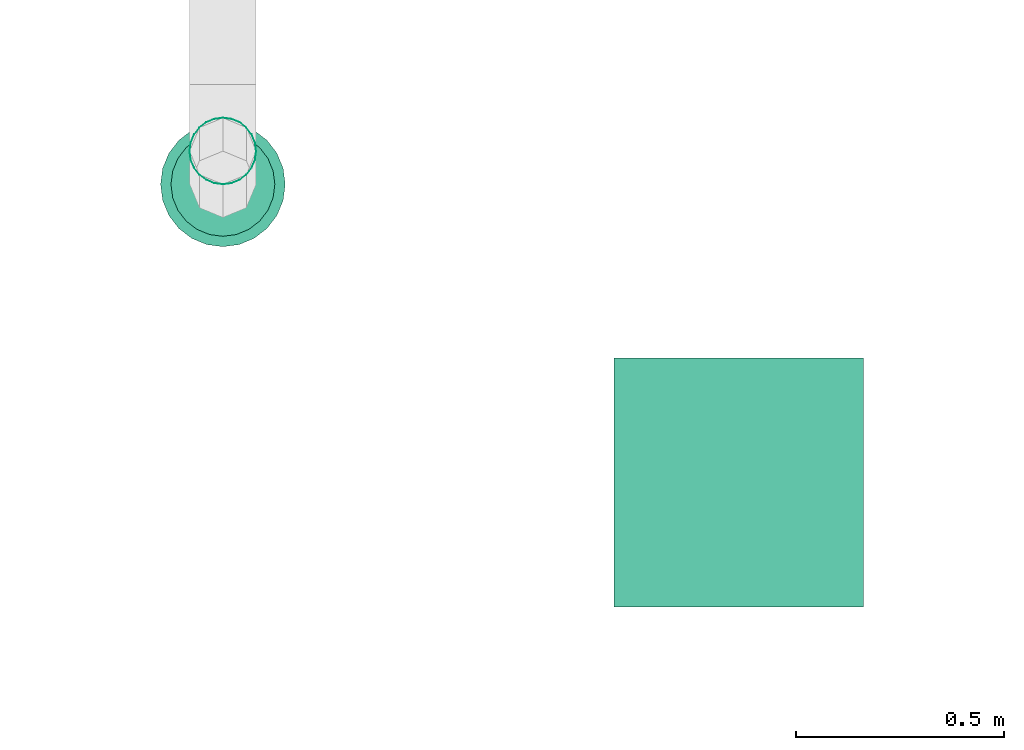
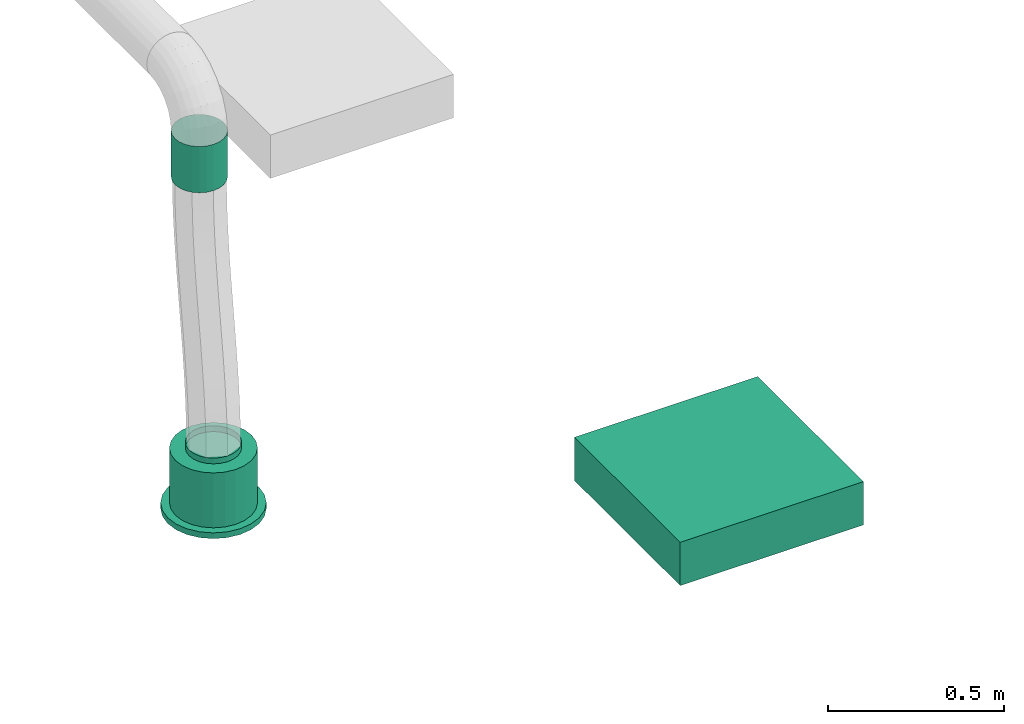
# One storey, part 16 of 374: 1 distribution element, 1 flow segment, 1 flow terminal.
"""IFC2X3 building model written with IfcOpenShell, lengths in metres."""

from ifc_helpers import new_model, si_unit, direction, frame, frame_2d, origin, place, context, subcontext, project, spatial, rectangle, extrude, open_shell, surface_model, source, transform, mapped, element, save


model = new_model("IFC2X3")

# Units and contexts
model_context = context("Model", 3, precision=1e-05, world=origin(), true_north=direction((-0.4480736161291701, 0.8939966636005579)))
body_context = subcontext(model_context, "Body", "Model", "MODEL_VIEW")
ifc_project = project(units=[si_unit("LENGTHUNIT", "METRE"), si_unit("AREAUNIT", "SQUARE_METRE"), si_unit("VOLUMEUNIT", "CUBIC_METRE"), si_unit("PLANEANGLEUNIT", "RADIAN"), si_unit("THERMODYNAMICTEMPERATUREUNIT", "KELVIN"), si_unit("MASSUNIT", "GRAM", prefix="KILO"), si_unit("TIMEUNIT", "SECOND")], contexts=[model_context])

# Site, building, storey
site_placement = place(None, origin())
site = spatial("IfcSite", under=ifc_project, at=site_placement, Name="Site 1", CompositionType="ELEMENT")
building_placement = place(site_placement, origin())
building = spatial("IfcBuilding", under=site, at=building_placement, Name="Undefined", CompositionType="ELEMENT")
storey_placement = place(building_placement, origin())
storey = spatial("IfcBuildingStorey", under=building, at=storey_placement, Name="Rez de chauss\x8ee", CompositionType="ELEMENT", Elevation=0.0)

# Flow terminal
shared_shape_1 = source(origin(), body_context, "Body", "SurfaceModel", [
    surface_model("IfcFaceBasedSurfaceModel", [(0.0, 0.0, 0.0), (0.03915785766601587, 0.0, 0.0), (0.03915785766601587, 0.020000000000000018, 0.0), (3.552713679e-15, 0.020000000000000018, 0.0), (0.07698144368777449, 0.0, -0.010134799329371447), (0.07698144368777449, 0.020000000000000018, -0.010134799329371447), (0.11089314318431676, 0.0, -0.02971372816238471), (0.11089314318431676, 0.020000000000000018, -0.02971372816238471), (0.13858192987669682, 0.0, -0.05740251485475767), (0.13858192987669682, 0.020000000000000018, -0.05740251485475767), (0.15816085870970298, 0.0, -0.09131421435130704), (0.15816085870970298, 0.020000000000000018, -0.09131421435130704), (0.16829565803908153, 0.0, -0.12913780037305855), (0.16829565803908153, 0.020000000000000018, -0.12913780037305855), (0.16829565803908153, 0.0, -0.16829565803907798), (0.16829565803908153, 0.020000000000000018, -0.16829565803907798), (0.15816085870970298, 0.0, -0.20611924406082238), (0.15816085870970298, 0.020000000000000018, -0.20611924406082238), (0.13858192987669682, 0.0, -0.24003094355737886), (0.13858192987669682, 0.020000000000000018, -0.24003094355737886), (0.11089314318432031, 0.0, -0.2677197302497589), (0.11089314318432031, 0.020000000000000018, -0.2677197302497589), (0.07698144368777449, 0.0, -0.2872986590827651), (0.07698144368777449, 0.020000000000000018, -0.2872986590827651), (0.039157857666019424, 0.0, -0.29743345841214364), (0.039157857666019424, 0.020000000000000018, -0.29743345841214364), (3.552713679e-15, 0.0, -0.29743345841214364), (3.552713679e-15, 0.020000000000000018, -0.29743345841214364), (-0.03782358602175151, 0.0, -0.2872986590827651), (-0.03782358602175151, 0.020000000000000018, -0.2872986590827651), (-0.07173528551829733, 0.0, -0.2677197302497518), (-0.07173528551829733, 0.020000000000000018, -0.2677197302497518), (-0.0994240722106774, 0.0, -0.24003094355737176), (-0.0994240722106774, 0.020000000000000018, -0.24003094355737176), (-0.11900300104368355, 0.0, -0.2061192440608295), (-0.11900300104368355, 0.020000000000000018, -0.2061192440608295), (-0.1291378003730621, 0.0, -0.16829565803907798), (-0.1291378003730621, 0.020000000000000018, -0.16829565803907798), (-0.1291378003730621, 0.0, -0.12913780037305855), (-0.1291378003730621, 0.020000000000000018, -0.12913780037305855), (-0.11900300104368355, 0.0, -0.09131421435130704), (-0.11900300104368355, 0.020000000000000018, -0.09131421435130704), (-0.0994240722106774, 0.0, -0.05740251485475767), (-0.0994240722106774, 0.020000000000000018, -0.05740251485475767), (-0.07173528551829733, 0.0, -0.029713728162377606), (-0.07173528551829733, 0.020000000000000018, -0.029713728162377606), (-0.03782358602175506, 0.0, -0.010134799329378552), (-0.03782358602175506, 0.020000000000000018, -0.010134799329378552), (0.019578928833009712, 0.0, -0.14871672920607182), (0.019578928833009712, 0.020000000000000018, -0.14871672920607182), (0.003263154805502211, 0.020000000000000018, -0.02478612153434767), (0.035894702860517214, 0.020000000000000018, -0.02478612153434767), (0.035894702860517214, 0.20999999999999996, -0.02478612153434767), (0.003263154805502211, 0.20999999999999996, -0.02478612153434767), (0.06741435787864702, 0.020000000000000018, -0.033231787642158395), (0.06741435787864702, 0.20999999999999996, -0.033231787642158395), (0.0956741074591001, 0.020000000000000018, -0.04954756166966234), (0.0956741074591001, 0.20999999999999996, -0.04954756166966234), (0.11874809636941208, 0.020000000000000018, -0.07262155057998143), (0.11874809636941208, 0.20999999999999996, -0.07262155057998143), (0.13506387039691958, 0.020000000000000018, -0.10088130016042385), (0.13506387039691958, 0.20999999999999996, -0.10088130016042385), (0.1435095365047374, 0.020000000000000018, -0.13240095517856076), (0.1435095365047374, 0.20999999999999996, -0.13240095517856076), (0.1435095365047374, 0.020000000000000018, -0.16503250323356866), (0.1435095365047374, 0.20999999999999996, -0.16503250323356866), (0.13506387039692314, 0.020000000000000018, -0.19655215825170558), (0.13506387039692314, 0.20999999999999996, -0.19655215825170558), (0.11874809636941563, 0.020000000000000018, -0.2248119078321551), (0.11874809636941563, 0.20999999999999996, -0.2248119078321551), (0.09567410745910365, 0.020000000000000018, -0.24788589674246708), (0.09567410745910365, 0.20999999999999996, -0.24788589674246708), (0.06741435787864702, 0.020000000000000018, -0.26420167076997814), (0.06741435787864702, 0.20999999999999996, -0.26420167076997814), (0.035894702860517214, 0.020000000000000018, -0.27264733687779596), (0.035894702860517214, 0.20999999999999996, -0.27264733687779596), (0.0032631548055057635, 0.020000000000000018, -0.27264733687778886), (0.0032631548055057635, 0.20999999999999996, -0.27264733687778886), (-0.028256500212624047, 0.020000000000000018, -0.26420167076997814), (-0.028256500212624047, 0.20999999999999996, -0.26420167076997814), (-0.05651624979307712, 0.020000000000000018, -0.2478858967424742), (-0.05651624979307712, 0.20999999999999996, -0.2478858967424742), (-0.07959023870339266, 0.020000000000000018, -0.2248119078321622), (-0.07959023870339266, 0.20999999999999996, -0.2248119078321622), (-0.09590601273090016, 0.020000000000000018, -0.19655215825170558), (-0.09590601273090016, 0.20999999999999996, -0.19655215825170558), (-0.10435167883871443, 0.020000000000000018, -0.16503250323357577), (-0.10435167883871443, 0.20999999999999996, -0.16503250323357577), (-0.10435167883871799, 0.020000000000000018, -0.13240095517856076), (-0.10435167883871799, 0.20999999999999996, -0.13240095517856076), (-0.09590601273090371, 0.020000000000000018, -0.10088130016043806), (-0.09590601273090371, 0.20999999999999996, -0.10088130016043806), (-0.07959023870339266, 0.020000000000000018, -0.07262155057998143), (-0.07959023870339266, 0.20999999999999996, -0.07262155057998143), (-0.056516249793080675, 0.020000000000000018, -0.04954756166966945), (-0.056516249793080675, 0.20999999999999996, -0.04954756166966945), (-0.028256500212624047, 0.020000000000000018, -0.033231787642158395), (-0.028256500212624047, 0.20999999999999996, -0.033231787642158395), (0.019578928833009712, 0.20999999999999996, -0.14871672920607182), (0.009136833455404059, 0.20999999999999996, -0.06940114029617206), (0.030021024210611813, 0.20999999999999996, -0.06940114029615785), (0.030021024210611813, 0.22999999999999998, -0.06940114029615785), (0.009136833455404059, 0.22999999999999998, -0.06940114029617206), (0.05019360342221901, 0.20999999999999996, -0.07480636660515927), (0.05019360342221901, 0.22999999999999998, -0.07480636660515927), (0.06827984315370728, 0.20999999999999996, -0.08524846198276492), (0.06827984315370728, 0.22999999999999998, -0.08524846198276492), (0.0830471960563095, 0.20999999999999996, -0.10001581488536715), (0.0830471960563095, 0.22999999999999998, -0.10001581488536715), (0.0934892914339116, 0.20999999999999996, -0.11810205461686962), (0.0934892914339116, 0.22999999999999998, -0.11810205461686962), (0.09889451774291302, 0.20999999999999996, -0.13827463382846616), (0.09889451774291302, 0.22999999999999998, -0.13827463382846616), (0.09889451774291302, 0.20999999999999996, -0.15915882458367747), (0.09889451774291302, 0.22999999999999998, -0.15915882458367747), (0.09348929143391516, 0.20999999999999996, -0.179331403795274), (0.09348929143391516, 0.22999999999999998, -0.179331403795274), (0.0830471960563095, 0.20999999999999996, -0.19741764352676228), (0.0830471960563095, 0.22999999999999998, -0.19741764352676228), (0.06827984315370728, 0.20999999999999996, -0.2121849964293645), (0.06827984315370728, 0.22999999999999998, -0.2121849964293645), (0.05019360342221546, 0.20999999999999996, -0.22262709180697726), (0.05019360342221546, 0.22999999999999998, -0.22262709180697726), (0.030021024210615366, 0.20999999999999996, -0.22803231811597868), (0.030021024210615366, 0.22999999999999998, -0.22803231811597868), (0.009136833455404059, 0.20999999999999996, -0.22803231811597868), (0.009136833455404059, 0.22999999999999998, -0.22803231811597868), (-0.011035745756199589, 0.20999999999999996, -0.22262709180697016), (-0.011035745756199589, 0.22999999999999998, -0.22262709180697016), (-0.0291219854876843, 0.20999999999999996, -0.2121849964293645), (-0.0291219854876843, 0.22999999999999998, -0.2121849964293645), (-0.043889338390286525, 0.20999999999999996, -0.19741764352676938), (-0.043889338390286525, 0.22999999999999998, -0.19741764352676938), (-0.05433143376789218, 0.20999999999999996, -0.17933140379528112), (-0.05433143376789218, 0.22999999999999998, -0.17933140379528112), (-0.05973666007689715, 0.20999999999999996, -0.15915882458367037), (-0.05973666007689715, 0.22999999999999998, -0.15915882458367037), (-0.0597366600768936, 0.20999999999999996, -0.13827463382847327), (-0.0597366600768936, 0.22999999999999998, -0.13827463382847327), (-0.05433143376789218, 0.20999999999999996, -0.11810205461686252), (-0.05433143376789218, 0.22999999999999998, -0.11810205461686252), (-0.043889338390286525, 0.20999999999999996, -0.10001581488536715), (-0.043889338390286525, 0.22999999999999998, -0.10001581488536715), (-0.02912198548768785, 0.20999999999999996, -0.08524846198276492), (-0.02912198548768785, 0.22999999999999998, -0.08524846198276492), (-0.011035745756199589, 0.20999999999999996, -0.07480636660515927), (-0.011035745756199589, 0.22999999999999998, -0.07480636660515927)], [open_shell([[[0, 1, 2, 3]], [[1, 4, 5, 2]], [[4, 6, 7, 5]], [[6, 8, 9, 7]], [[8, 10, 11, 9]], [[10, 12, 13, 11]], [[12, 14, 15, 13]], [[14, 16, 17, 15]], [[16, 18, 19, 17]], [[18, 20, 21, 19]], [[20, 22, 23, 21]], [[22, 24, 25, 23]], [[24, 26, 27, 25]], [[26, 28, 29, 27]], [[28, 30, 31, 29]], [[30, 32, 33, 31]], [[32, 34, 35, 33]], [[34, 36, 37, 35]], [[36, 38, 39, 37]], [[38, 40, 41, 39]], [[40, 42, 43, 41]], [[42, 44, 45, 43]], [[44, 46, 47, 45]], [[46, 0, 3, 47]], [[48, 1, 0]], [[48, 4, 1]], [[48, 6, 4]], [[48, 8, 6]], [[48, 10, 8]], [[48, 12, 10]], [[48, 14, 12]], [[48, 16, 14]], [[48, 18, 16]], [[48, 20, 18]], [[48, 22, 20]], [[48, 24, 22]], [[48, 26, 24]], [[48, 28, 26]], [[48, 30, 28]], [[48, 32, 30]], [[48, 34, 32]], [[48, 36, 34]], [[48, 38, 36]], [[48, 40, 38]], [[48, 42, 40]], [[48, 44, 42]], [[48, 46, 44]], [[48, 0, 46]], [[49, 47, 3]], [[49, 45, 47]], [[49, 43, 45]], [[49, 41, 43]], [[49, 39, 41]], [[49, 37, 39]], [[49, 35, 37]], [[49, 33, 35]], [[49, 31, 33]], [[49, 29, 31]], [[49, 27, 29]], [[49, 25, 27]], [[49, 23, 25]], [[49, 21, 23]], [[49, 19, 21]], [[49, 17, 19]], [[49, 15, 17]], [[49, 13, 15]], [[49, 11, 13]], [[49, 9, 11]], [[49, 7, 9]], [[49, 5, 7]], [[49, 2, 5]], [[49, 3, 2]], [[50, 51, 52, 53]], [[51, 54, 55, 52]], [[54, 56, 57, 55]], [[56, 58, 59, 57]], [[58, 60, 61, 59]], [[60, 62, 63, 61]], [[62, 64, 65, 63]], [[64, 66, 67, 65]], [[66, 68, 69, 67]], [[68, 70, 71, 69]], [[70, 72, 73, 71]], [[72, 74, 75, 73]], [[74, 76, 77, 75]], [[76, 78, 79, 77]], [[78, 80, 81, 79]], [[80, 82, 83, 81]], [[82, 84, 85, 83]], [[84, 86, 87, 85]], [[86, 88, 89, 87]], [[88, 90, 91, 89]], [[90, 92, 93, 91]], [[92, 94, 95, 93]], [[94, 96, 97, 95]], [[96, 50, 53, 97]], [[49, 51, 50]], [[49, 54, 51]], [[49, 56, 54]], [[49, 58, 56]], [[49, 60, 58]], [[49, 62, 60]], [[49, 64, 62]], [[49, 66, 64]], [[49, 68, 66]], [[49, 70, 68]], [[49, 72, 70]], [[49, 74, 72]], [[49, 76, 74]], [[49, 78, 76]], [[49, 80, 78]], [[49, 82, 80]], [[49, 84, 82]], [[49, 86, 84]], [[49, 88, 86]], [[49, 90, 88]], [[49, 92, 90]], [[49, 94, 92]], [[49, 96, 94]], [[49, 50, 96]], [[98, 97, 53]], [[98, 95, 97]], [[98, 93, 95]], [[98, 91, 93]], [[98, 89, 91]], [[98, 87, 89]], [[98, 85, 87]], [[98, 83, 85]], [[98, 81, 83]], [[98, 79, 81]], [[98, 77, 79]], [[98, 75, 77]], [[98, 73, 75]], [[98, 71, 73]], [[98, 69, 71]], [[98, 67, 69]], [[98, 65, 67]], [[98, 63, 65]], [[98, 61, 63]], [[98, 59, 61]], [[98, 57, 59]], [[98, 55, 57]], [[98, 52, 55]], [[98, 53, 52]], [[99, 100, 101, 102]], [[100, 103, 104, 101]], [[103, 105, 106, 104]], [[105, 107, 108, 106]], [[107, 109, 110, 108]], [[109, 111, 112, 110]], [[111, 113, 114, 112]], [[113, 115, 116, 114]], [[115, 117, 118, 116]], [[117, 119, 120, 118]], [[119, 121, 122, 120]], [[121, 123, 124, 122]], [[123, 125, 126, 124]], [[125, 127, 128, 126]], [[127, 129, 130, 128]], [[129, 131, 132, 130]], [[131, 133, 134, 132]], [[133, 135, 136, 134]], [[135, 137, 138, 136]], [[137, 139, 140, 138]], [[139, 141, 142, 140]], [[141, 143, 144, 142]], [[143, 145, 146, 144]], [[145, 99, 102, 146]]])]),
])
flow_terminal_placement = place(storey_placement, origin())
element("IfcFlowTerminal", 1, at=flow_terminal_placement, inside=storey, Name="Air diffuseur - bouche", ObjectType="Air diffuseur - bouche", context=body_context, shape_type="MappedRepresentation", body=[
    mapped(shared_shape_1, transform((6.290000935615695, 2.0299997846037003, 2.38), x_axis=(-0.9914448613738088, -0.13052619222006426, 0.0), y_axis=(0.0, 0.0, 1.0), z_axis=(-0.13052619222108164, 0.9914448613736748, 0.0))),
])

# Flow segment
shared_shape_2 = source(origin(), body_context, "Body", "SurfaceModel", [
    surface_model("IfcFaceBasedSurfaceModel", [(0.0, 0.020884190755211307, 0.0), (0.0, 0.0, 0.0), (0.16000000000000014, 0.0, -4.4408921e-16), (0.16000000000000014, 0.0208841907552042, -4.4408921e-16), (0.0, -0.020172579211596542, -0.005405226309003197), (0.16000000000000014, -0.020172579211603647, -0.005405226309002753), (0.0, -0.03825881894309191, -0.015847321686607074), (0.16000000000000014, -0.03825881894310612, -0.015847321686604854), (0.0, -0.05302617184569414, -0.0306146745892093), (0.16000000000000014, -0.05302617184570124, -0.03061467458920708), (0.0, -0.06346826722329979, -0.04870091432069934), (0.16000000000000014, -0.0634682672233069, -0.04870091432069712), (0.0, -0.06887349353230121, -0.06887349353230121), (0.16000000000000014, -0.06887349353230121, -0.06887349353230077), (0.0, -0.06887349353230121, -0.08975768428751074), (0.16000000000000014, -0.06887349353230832, -0.08975768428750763), (0.0, -0.06346826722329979, -0.10993026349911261), (0.16000000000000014, -0.0634682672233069, -0.10993026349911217), (0.0, -0.05302617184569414, -0.12801650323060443), (0.16000000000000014, -0.05302617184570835, -0.1280165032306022), (0.0, -0.038258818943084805, -0.14278385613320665), (0.16000000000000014, -0.03825881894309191, -0.14278385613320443), (0.0, -0.020172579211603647, -0.15322595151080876), (0.16000000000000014, -0.020172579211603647, -0.1532259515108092), (0.0, 7.105427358e-15, -0.15863117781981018), (0.16000000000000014, -7.105427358e-15, -0.15863117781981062), (0.0, 0.020884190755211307, -0.15863117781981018), (0.16000000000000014, 0.0208841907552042, -0.15863117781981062), (0.0, 0.04105676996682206, -0.15322595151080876), (0.16000000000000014, 0.04105676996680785, -0.1532259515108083), (0.0, 0.05914300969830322, -0.1427838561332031), (0.16000000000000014, 0.05914300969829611, -0.14278385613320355), (0.0, 0.07391036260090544, -0.12801650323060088), (0.16000000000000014, 0.07391036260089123, -0.1280165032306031), (0.0, 0.0843524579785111, -0.10993026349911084), (0.16000000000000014, 0.08435245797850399, -0.10993026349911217), (0.0, 0.08975768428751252, -0.08975768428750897), (0.16000000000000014, 0.08975768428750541, -0.08975768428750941), (0.0, 0.08975768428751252, -0.06887349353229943), (0.16000000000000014, 0.08975768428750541, -0.06887349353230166), (0.0, 0.0843524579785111, -0.048700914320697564), (0.16000000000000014, 0.08435245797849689, -0.04870091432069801), (0.0, 0.07391036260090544, -0.030614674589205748), (0.16000000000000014, 0.07391036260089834, -0.03061467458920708), (0.0, 0.05914300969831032, -0.015847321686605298), (0.16000000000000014, 0.05914300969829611, -0.01584732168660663), (0.0, 0.04105676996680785, -0.005405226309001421), (0.16000000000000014, 0.04105676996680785, -0.005405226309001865)], [open_shell([[[0, 1, 2, 3]], [[1, 4, 5, 2]], [[4, 6, 7, 5]], [[6, 8, 9, 7]], [[8, 10, 11, 9]], [[10, 12, 13, 11]], [[12, 14, 15, 13]], [[14, 16, 17, 15]], [[16, 18, 19, 17]], [[18, 20, 21, 19]], [[20, 22, 23, 21]], [[22, 24, 25, 23]], [[24, 26, 27, 25]], [[26, 28, 29, 27]], [[28, 30, 31, 29]], [[30, 32, 33, 31]], [[32, 34, 35, 33]], [[34, 36, 37, 35]], [[36, 38, 39, 37]], [[38, 40, 41, 39]], [[40, 42, 43, 41]], [[42, 44, 45, 43]], [[44, 46, 47, 45]], [[46, 0, 3, 47]]])]),
])
flow_segment_placement = place(storey_placement, origin())
element("IfcFlowSegment", 2, at=flow_segment_placement, inside=storey, Name="Tube", ObjectType="Tube", context=body_context, shape_type="MappedRepresentation", body=[
    mapped(shared_shape_2, transform((6.2692954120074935, 2.0372738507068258, 3.4800000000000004), x_axis=(0.0, 0.0, 1.0), y_axis=(0.9914448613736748, 0.13052619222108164, 0.0), z_axis=(-0.13052619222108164, 0.9914448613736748, 0.0))),
])

# Distribution element
distribution_element_placement = place(storey_placement, origin())
element("IfcDistributionElement", 3, at=distribution_element_placement, inside=storey, Name="Decken-Rechteckleuchte mit Rahmen AP", ObjectType="Decken-Rechteckleuchte mit Rahmen AP", context=body_context, shape_type="SweptSolid", body=[
    extrude(rectangle(XDim=0.6000000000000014, YDim=0.6000000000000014, at=frame_2d((3.552713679e-15, 0.0), x_axis=(0.0, 1.0))), frame((7.531229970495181, 1.1625, 2.5500000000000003), z_axis=(0.0, 0.0, -1.0), x_axis=(1.0, 0.0, 0.0)), (0.0, 0.0, 1.0), 0.15),
])

save(model, "model.ifc")
